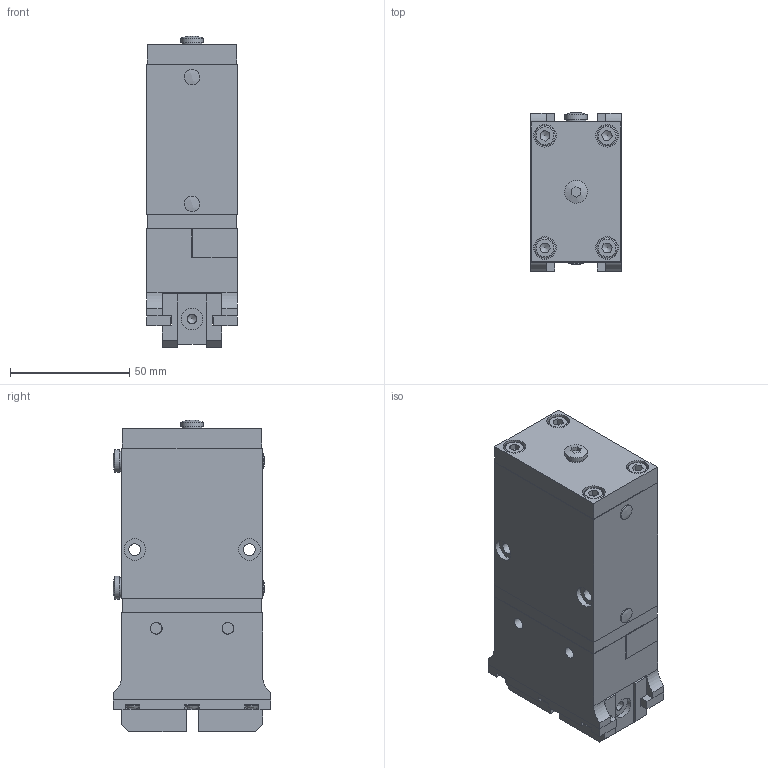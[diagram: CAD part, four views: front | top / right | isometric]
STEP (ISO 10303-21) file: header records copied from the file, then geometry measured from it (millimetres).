
FILE_DESCRIPTION((''),'2;1');
FILE_NAME('C:\Dokumente und Einstellungen\is\Desktop\Korrigieren\stp\3000018.stp','2011-05-24T12:13:44',('is'),(''),'Autodesk Inventor 2009','Autodesk Inventor 2009','');
FILE_SCHEMA(('AUTOMOTIVE_DESIGN { 1 0 10303 214 1 1 1 1 }'));
Length unit declared in the file: millimetre
Products named in the file (1): 3000018
Bounding box: 38 x 66.09 x 130.34 mm (x, y, z)
Volume: 229969.7 mm3; surface area: 71516.5 mm2
Topology: 1 solids, 49 shells, 1172 faces, 3043 edges, 1992 vertices
Faces by surface type: plane 846, bspline 136, cylinder 106, cone 63, torus 16, sphere 5
Full cylindrical faces by diameter (mm): 3 x6, 4 x4, 5 x12, 5.7 x6, 6 x2, 6.5 x2, 7 x1, 8 x2, 8.2 x1, 8.3 x3, 8.5 x5, 9.5 x4, 10 x6, 11 x1, 12 x2, 12.2 x2, 20 x1, 22 x2, 24.5 x2, 28.5 x2, 31.85 x2, 32 x3, 33 x1, 35.6 x1
Entity records: 44655 total; most frequent: CARTESIAN_POINT 17305, ORIENTED_EDGE 5276, DIRECTION 5075, EDGE_CURVE 2638, VERTEX_POINT 1857, AXIS2_PLACEMENT_3D 1809, EDGE_LOOP 1555, VECTOR 1457
